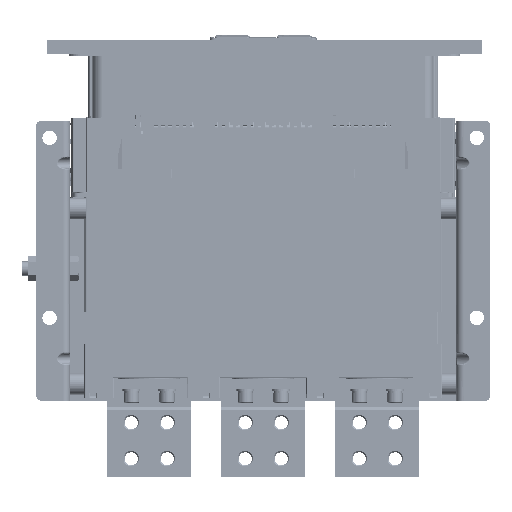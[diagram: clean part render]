
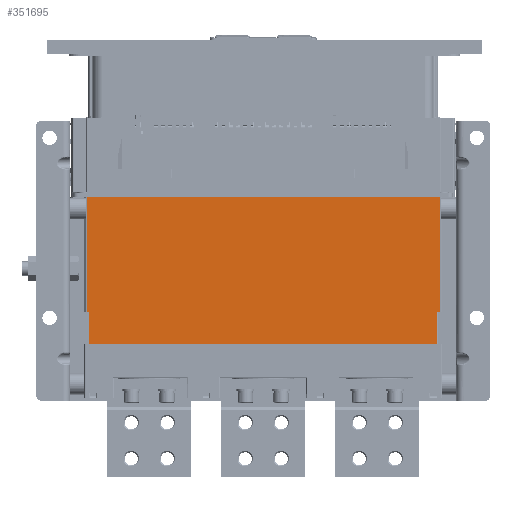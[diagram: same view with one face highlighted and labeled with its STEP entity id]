
A CAD part, front view. The second image highlights one B-rep face of the part: STEP entity #351695.
In plain terms, the highlighted planar face has unit normal (0, -1, 0) as drawn and (0, 1, 0) by its records, which use the part's own axes.
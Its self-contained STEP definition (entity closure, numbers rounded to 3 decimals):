
#4067 = CARTESIAN_POINT ( 'NONE',  ( -138.5, 150., -1000.5 ) ) ;
#5580 = EDGE_CURVE ( 'NONE', #14226, #107110, #415267, .T. ) ;
#6633 = LINE ( 'NONE', #380994, #153432 ) ;
#12387 = CARTESIAN_POINT ( 'NONE',  ( -138.5, 150., -1027.5 ) ) ;
#14226 = VERTEX_POINT ( 'NONE', #102641 ) ;
#15948 = DIRECTION ( 'NONE',  ( 1., 0., 0. ) ) ;
#19493 = VECTOR ( 'NONE', #225256, 1000. ) ;
#24522 = VECTOR ( 'NONE', #226146, 1000. ) ;
#31230 = LINE ( 'NONE', #483019, #312006 ) ;
#90598 = CARTESIAN_POINT ( 'NONE',  ( 151.5, 150., -1000.5 ) ) ;
#102641 = CARTESIAN_POINT ( 'NONE',  ( 151.5, 150., -1027.5 ) ) ;
#103688 = DIRECTION ( 'NONE',  ( 0., 0., 1. ) ) ;
#107110 = VERTEX_POINT ( 'NONE', #116863 ) ;
#109835 = VERTEX_POINT ( 'NONE', #282771 ) ;
#116863 = CARTESIAN_POINT ( 'NONE',  ( 151.5, 150., -1000.5 ) ) ;
#123079 = LINE ( 'NONE', #90598, #400231 ) ;
#125554 = DIRECTION ( 'NONE',  ( -1., 0., 0. ) ) ;
#148332 = CARTESIAN_POINT ( 'NONE',  ( -140.5, 150., -1027.5 ) ) ;
#149633 = EDGE_CURVE ( 'NONE', #459800, #486378, #6633, .T. ) ;
#151251 = LINE ( 'NONE', #420692, #24522 ) ;
#151712 = EDGE_CURVE ( 'NONE', #355530, #459800, #195218, .T. ) ;
#152741 = ORIENTED_EDGE ( 'NONE', *, *, #149633, .F. ) ;
#152862 = CARTESIAN_POINT ( 'NONE',  ( -138.5, 150., -1027.5 ) ) ;
#153432 = VECTOR ( 'NONE', #153928, 1000. ) ;
#153928 = DIRECTION ( 'NONE',  ( 0., 0., -1. ) ) ;
#160155 = ORIENTED_EDGE ( 'NONE', *, *, #309597, .F. ) ;
#162782 = EDGE_CURVE ( 'NONE', #107110, #387004, #123079, .T. ) ;
#167463 = LINE ( 'NONE', #244822, #453657 ) ;
#191218 = EDGE_CURVE ( 'NONE', #14226, #313613, #151251, .T. ) ;
#191493 = CARTESIAN_POINT ( 'NONE',  ( 153.5, 150., -1027.5 ) ) ;
#195218 = LINE ( 'NONE', #152862, #19493 ) ;
#198038 = CARTESIAN_POINT ( 'NONE',  ( 151.5, 150., -1027.5 ) ) ;
#199478 = EDGE_CURVE ( 'NONE', #355530, #387004, #167463, .T. ) ;
#216064 = ORIENTED_EDGE ( 'NONE', *, *, #191218, .T. ) ;
#225256 = DIRECTION ( 'NONE',  ( -1., 0., 0. ) ) ;
#226146 = DIRECTION ( 'NONE',  ( 1., 0., 0. ) ) ;
#226781 = EDGE_LOOP ( 'NONE', ( #403879, #160155, #152741, #316715, #339803, #467838, #382339, #216064 ) ) ;
#244822 = CARTESIAN_POINT ( 'NONE',  ( -138.5, 150., -1027.5 ) ) ;
#265784 = DIRECTION ( 'NONE',  ( 1., 0., 0. ) ) ;
#278645 = AXIS2_PLACEMENT_3D ( 'NONE', #375623, #378104, #265784 ) ;
#282254 = DIRECTION ( 'NONE',  ( 0., 0., 1. ) ) ;
#282771 = CARTESIAN_POINT ( 'NONE',  ( 153.5, 150., -1123.5 ) ) ;
#309597 = EDGE_CURVE ( 'NONE', #486378, #109835, #425299, .T. ) ;
#312006 = VECTOR ( 'NONE', #103688, 1000. ) ;
#313613 = VERTEX_POINT ( 'NONE', #191493 ) ;
#316715 = ORIENTED_EDGE ( 'NONE', *, *, #151712, .F. ) ;
#339803 = ORIENTED_EDGE ( 'NONE', *, *, #199478, .T. ) ;
#351695 = ADVANCED_FACE ( 'NONE', ( #413053 ), #452972, .T. ) ;
#355530 = VERTEX_POINT ( 'NONE', #12387 ) ;
#375623 = CARTESIAN_POINT ( 'NONE',  ( -251., 150., -1000. ) ) ;
#377376 = CARTESIAN_POINT ( 'NONE',  ( -140.5, 150., -1123.5 ) ) ;
#378104 = DIRECTION ( 'NONE',  ( 0., 1., 0. ) ) ;
#380994 = CARTESIAN_POINT ( 'NONE',  ( -140.5, 150., -1027.5 ) ) ;
#382339 = ORIENTED_EDGE ( 'NONE', *, *, #5580, .F. ) ;
#387004 = VERTEX_POINT ( 'NONE', #4067 ) ;
#400231 = VECTOR ( 'NONE', #125554, 1000. ) ;
#403879 = ORIENTED_EDGE ( 'NONE', *, *, #452289, .F. ) ;
#413053 = FACE_OUTER_BOUND ( 'NONE', #226781, .T. ) ;
#415267 = LINE ( 'NONE', #198038, #487814 ) ;
#420692 = CARTESIAN_POINT ( 'NONE',  ( 151.5, 150., -1027.5 ) ) ;
#425299 = LINE ( 'NONE', #465224, #443563 ) ;
#443563 = VECTOR ( 'NONE', #15948, 1000. ) ;
#452289 = EDGE_CURVE ( 'NONE', #109835, #313613, #31230, .T. ) ;
#452972 = PLANE ( 'NONE',  #278645 ) ;
#453657 = VECTOR ( 'NONE', #282254, 1000. ) ;
#457653 = DIRECTION ( 'NONE',  ( 0., 0., 1. ) ) ;
#459800 = VERTEX_POINT ( 'NONE', #148332 ) ;
#465224 = CARTESIAN_POINT ( 'NONE',  ( -140.5, 150., -1123.5 ) ) ;
#467838 = ORIENTED_EDGE ( 'NONE', *, *, #162782, .F. ) ;
#483019 = CARTESIAN_POINT ( 'NONE',  ( 153.5, 150., -1123.5 ) ) ;
#486378 = VERTEX_POINT ( 'NONE', #377376 ) ;
#487814 = VECTOR ( 'NONE', #457653, 1000. ) ;
